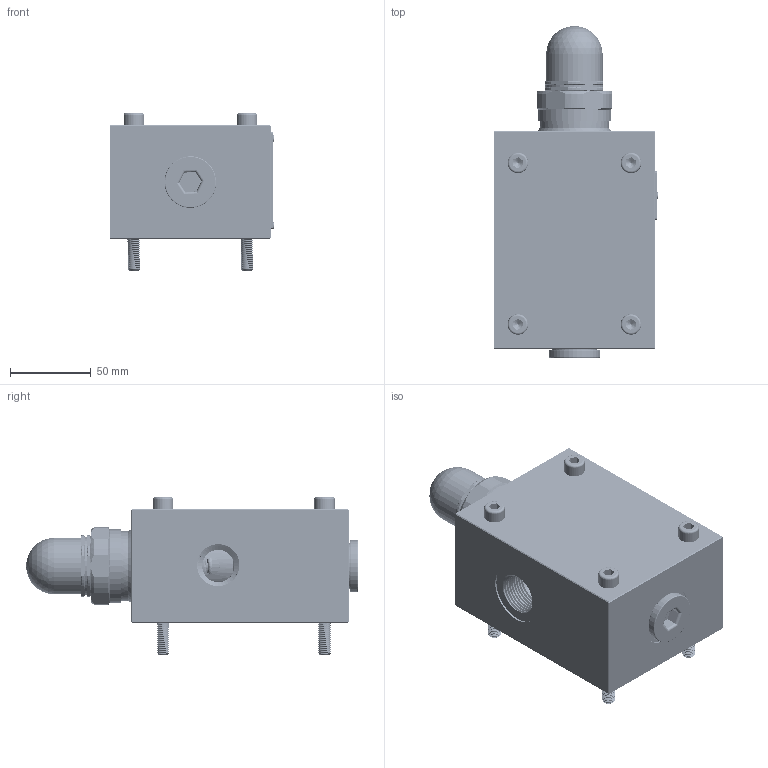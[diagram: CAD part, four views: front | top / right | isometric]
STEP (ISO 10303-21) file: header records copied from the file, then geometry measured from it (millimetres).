
FILE_DESCRIPTION(/* description */ (''),/* implementation_level */ '2;1');
FILE_NAME(/* name */ 'DBDS15G.stp',/* time_stamp */ '2024-07-25T08:26:58+08:00',/* author */ (''),/* organization */ (''),/* preprocessor_version */ 'ST-DEVELOPER v16.7',/* originating_system */ 'SIEMENS PLM Software NX 12.0',/* authorisation */ '');
FILE_SCHEMA (('AUTOMOTIVE_DESIGN { 1 0 10303 214 3 1 1 1 }'));
Products named in the file (1): DBDS15G
Bounding box: 102 x 205.5 x 97.64 mm (x, y, z)
Volume: 916458.1 mm3; surface area: 176445.5 mm2
Topology: 27 solids, 27 shells, 1041 faces, 2574 edges, 1614 vertices
Faces by surface type: cylinder 422, plane 386, cone 112, bspline 61, torus 57, sphere 3
Full cylindrical faces by diameter (mm): 1 x1, 1.5 x4, 1.8 x4, 1.9 x2, 3.1 x2, 4 x3, 5.4 x2, 5.5 x3, 6 x5, 7.8 x1, 8 x184, 9 x4, 9.4 x5, 9.7 x3, 10 x14, 10.2 x4, 11.7 x2, 12.4 x1, 12.73 x4, 13.4 x1, 17 x3, 17.5 x1, 19.7 x1, 20 x3, 24 x3, 25 x23, 26 x1, 27.3 x1, 28 x4, 28.5 x3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
Entity records: 117255 total; most frequent: CARTESIAN_POINT 100603, ORIENTED_EDGE 3156, DIRECTION 3094, EDGE_CURVE 1578, AXIS2_PLACEMENT_3D 1311, EDGE_LOOP 1154, VERTEX_POINT 1099, ADVANCED_FACE 818
